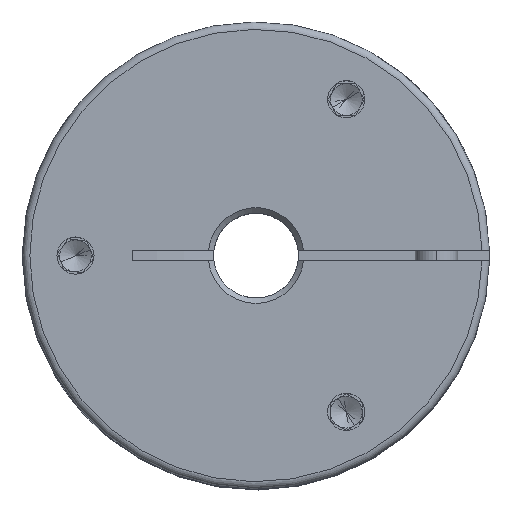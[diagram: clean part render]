
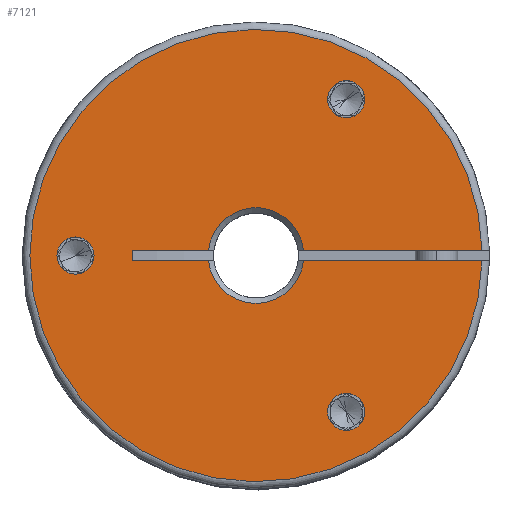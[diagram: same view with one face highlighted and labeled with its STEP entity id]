
A CAD part, top view. The second image highlights one B-rep face of the part: STEP entity #7121.
In plain terms, the highlighted planar face has unit normal (0, 0, 1).
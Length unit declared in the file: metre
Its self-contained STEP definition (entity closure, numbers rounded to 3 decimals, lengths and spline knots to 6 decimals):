
#403 = EDGE_CURVE ( 'NONE', #17559, #8874, #3615, .T. ) ;
#457 = CIRCLE ( 'NONE', #26208, 0.0045 ) ;
#834 = AXIS2_PLACEMENT_3D ( 'NONE', #24992, #5740, #27371 ) ;
#992 = CARTESIAN_POINT ( 'NONE',  ( 0.021294, -0.0005, 0.02345 ) ) ;
#1031 = CARTESIAN_POINT ( 'NONE',  ( 0., 0., 0.02345 ) ) ;
#1873 = CARTESIAN_POINT ( 'NONE',  ( 0.01025, 0.014722, 0.02345 ) ) ;
#2520 = FACE_BOUND ( 'NONE', #24601, .T. ) ;
#2903 = DIRECTION ( 'NONE',  ( 1., 0., 0. ) ) ;
#3254 = CARTESIAN_POINT ( 'NONE',  ( 0.0085, -0.014722, 0.02345 ) ) ;
#3404 = ORIENTED_EDGE ( 'NONE', *, *, #4106, .T. ) ;
#3424 = DIRECTION ( 'NONE',  ( 1., 0., 0. ) ) ;
#3501 = EDGE_CURVE ( 'NONE', #26409, #21479, #26547, .T. ) ;
#3576 = CARTESIAN_POINT ( 'NONE',  ( 0., 0., 0.02345 ) ) ;
#3615 = CIRCLE ( 'NONE', #26888, 0.00175 ) ;
#3699 = CARTESIAN_POINT ( 'NONE',  ( -0.017, 0., 0.02345 ) ) ;
#3891 = DIRECTION ( 'NONE',  ( 0., 0., 1. ) ) ;
#4106 = EDGE_CURVE ( 'NONE', #26416, #26409, #457, .T. ) ;
#4438 = CIRCLE ( 'NONE', #30797, 0.00175 ) ;
#4801 = CARTESIAN_POINT ( 'NONE',  ( 0., 0.0005, 0.02345 ) ) ;
#4888 = ORIENTED_EDGE ( 'NONE', *, *, #15957, .T. ) ;
#5241 = DIRECTION ( 'NONE',  ( 0., 0., 1. ) ) ;
#5435 = CIRCLE ( 'NONE', #27682, 0.0045 ) ;
#5737 = LINE ( 'NONE', #4801, #27726 ) ;
#5740 = DIRECTION ( 'NONE',  ( 0., 0., 1. ) ) ;
#6078 = DIRECTION ( 'NONE',  ( 1., 0., 0. ) ) ;
#6241 = FACE_BOUND ( 'NONE', #14120, .T. ) ;
#6325 = VERTEX_POINT ( 'NONE', #19108 ) ;
#6703 = EDGE_CURVE ( 'NONE', #8874, #17559, #16708, .T. ) ;
#7121 = ADVANCED_FACE ( 'NONE', ( #2520, #12577, #6241, #18517 ), #12061, .T. ) ;
#7330 = VERTEX_POINT ( 'NONE', #24437 ) ;
#7370 = DIRECTION ( 'NONE',  ( 1., 0., 0. ) ) ;
#7820 = EDGE_CURVE ( 'NONE', #7330, #19476, #5435, .T. ) ;
#8298 = EDGE_CURVE ( 'NONE', #19950, #21479, #12493, .T. ) ;
#8433 = CARTESIAN_POINT ( 'NONE',  ( 0.021294, 0.0005, 0.02345 ) ) ;
#8686 = EDGE_CURVE ( 'NONE', #29971, #19476, #5737, .T. ) ;
#8820 = CARTESIAN_POINT ( 'NONE',  ( -0.011615, -0.0005, 0.02345 ) ) ;
#8874 = VERTEX_POINT ( 'NONE', #24647 ) ;
#9134 = VECTOR ( 'NONE', #17626, 1. ) ;
#9419 = CIRCLE ( 'NONE', #16531, 0.0213 ) ;
#9718 = VERTEX_POINT ( 'NONE', #992 ) ;
#9816 = CARTESIAN_POINT ( 'NONE',  ( -0.01525, 0., 0.02345 ) ) ;
#10327 = DIRECTION ( 'NONE',  ( 1., 0., 0. ) ) ;
#10618 = ORIENTED_EDGE ( 'NONE', *, *, #6703, .F. ) ;
#10895 = VERTEX_POINT ( 'NONE', #13512 ) ;
#10974 = DIRECTION ( 'NONE',  ( 0., 0., 1. ) ) ;
#10983 = LINE ( 'NONE', #22877, #22911 ) ;
#12061 = PLANE ( 'NONE',  #12738 ) ;
#12246 = VECTOR ( 'NONE', #23066, 1. ) ;
#12302 = CARTESIAN_POINT ( 'NONE',  ( -0.01875, 0., 0.02345 ) ) ;
#12493 = LINE ( 'NONE', #27488, #9134 ) ;
#12577 = FACE_BOUND ( 'NONE', #18660, .T. ) ;
#12738 = AXIS2_PLACEMENT_3D ( 'NONE', #26415, #14670, #7370 ) ;
#12949 = DIRECTION ( 'NONE',  ( 0., 0., -1. ) ) ;
#13512 = CARTESIAN_POINT ( 'NONE',  ( 0.01025, -0.014722, 0.02345 ) ) ;
#13700 = CARTESIAN_POINT ( 'NONE',  ( -0.011615, 0.0005, 0.02345 ) ) ;
#14120 = EDGE_LOOP ( 'NONE', ( #15504, #22628 ) ) ;
#14541 = CARTESIAN_POINT ( 'NONE',  ( 0.0085, 0.014722, 0.02345 ) ) ;
#14615 = CARTESIAN_POINT ( 'NONE',  ( 0.0085, 0.014722, 0.02345 ) ) ;
#14670 = DIRECTION ( 'NONE',  ( 0., 0., 1. ) ) ;
#15154 = EDGE_LOOP ( 'NONE', ( #15388, #4888, #3404, #28213, #20415, #22638, #22944, #22526 ) ) ;
#15388 = ORIENTED_EDGE ( 'NONE', *, *, #19275, .T. ) ;
#15504 = ORIENTED_EDGE ( 'NONE', *, *, #17340, .F. ) ;
#15578 = AXIS2_PLACEMENT_3D ( 'NONE', #3254, #19899, #10327 ) ;
#15957 = EDGE_CURVE ( 'NONE', #9718, #26416, #29007, .T. ) ;
#16531 = AXIS2_PLACEMENT_3D ( 'NONE', #1031, #24850, #3424 ) ;
#16708 = CIRCLE ( 'NONE', #25478, 0.00175 ) ;
#17076 = DIRECTION ( 'NONE',  ( -1., 0., 0. ) ) ;
#17340 = EDGE_CURVE ( 'NONE', #10895, #6325, #28926, .T. ) ;
#17559 = VERTEX_POINT ( 'NONE', #1873 ) ;
#17626 = DIRECTION ( 'NONE',  ( 0., -1., 0. ) ) ;
#18133 = DIRECTION ( 'NONE',  ( 0., 0., -1. ) ) ;
#18404 = DIRECTION ( 'NONE',  ( -1., 0., 0. ) ) ;
#18479 = AXIS2_PLACEMENT_3D ( 'NONE', #22149, #29320, #2903 ) ;
#18517 = FACE_OUTER_BOUND ( 'NONE', #15154, .T. ) ;
#18660 = EDGE_LOOP ( 'NONE', ( #30029, #10618 ) ) ;
#19108 = CARTESIAN_POINT ( 'NONE',  ( 0.00675, -0.014722, 0.02345 ) ) ;
#19275 = EDGE_CURVE ( 'NONE', #29971, #9718, #9419, .T. ) ;
#19476 = VERTEX_POINT ( 'NONE', #20690 ) ;
#19899 = DIRECTION ( 'NONE',  ( 0., 0., 1. ) ) ;
#19950 = VERTEX_POINT ( 'NONE', #13700 ) ;
#20222 = VECTOR ( 'NONE', #18404, 1. ) ;
#20357 = CARTESIAN_POINT ( 'NONE',  ( 0., -0.0005, 0.02345 ) ) ;
#20415 = ORIENTED_EDGE ( 'NONE', *, *, #8298, .F. ) ;
#20430 = CARTESIAN_POINT ( 'NONE',  ( 0.004472, -0.0005, 0.02345 ) ) ;
#20551 = VERTEX_POINT ( 'NONE', #9816 ) ;
#20690 = CARTESIAN_POINT ( 'NONE',  ( 0.004472, 0.0005, 0.02345 ) ) ;
#20841 = ORIENTED_EDGE ( 'NONE', *, *, #24021, .F. ) ;
#21479 = VERTEX_POINT ( 'NONE', #8820 ) ;
#21741 = DIRECTION ( 'NONE',  ( 1., 0., 0. ) ) ;
#22149 = CARTESIAN_POINT ( 'NONE',  ( -0.017, 0., 0.02345 ) ) ;
#22426 = DIRECTION ( 'NONE',  ( 1., 0., 0. ) ) ;
#22526 = ORIENTED_EDGE ( 'NONE', *, *, #8686, .F. ) ;
#22628 = ORIENTED_EDGE ( 'NONE', *, *, #28392, .F. ) ;
#22638 = ORIENTED_EDGE ( 'NONE', *, *, #27468, .F. ) ;
#22832 = DIRECTION ( 'NONE',  ( 1., 0., 0. ) ) ;
#22877 = CARTESIAN_POINT ( 'NONE',  ( 0., 0.0005, 0.02345 ) ) ;
#22911 = VECTOR ( 'NONE', #22979, 1. ) ;
#22944 = ORIENTED_EDGE ( 'NONE', *, *, #7820, .T. ) ;
#22979 = DIRECTION ( 'NONE',  ( -1., 0., 0. ) ) ;
#23066 = DIRECTION ( 'NONE',  ( -1., 0., 0. ) ) ;
#23099 = CARTESIAN_POINT ( 'NONE',  ( 0., -0.0005, 0.02345 ) ) ;
#24021 = EDGE_CURVE ( 'NONE', #28346, #20551, #4438, .T. ) ;
#24437 = CARTESIAN_POINT ( 'NONE',  ( -0.004472, 0.0005, 0.02345 ) ) ;
#24601 = EDGE_LOOP ( 'NONE', ( #29212, #20841 ) ) ;
#24647 = CARTESIAN_POINT ( 'NONE',  ( 0.00675, 0.014722, 0.02345 ) ) ;
#24850 = DIRECTION ( 'NONE',  ( 0., 0., 1. ) ) ;
#24992 = CARTESIAN_POINT ( 'NONE',  ( 0.0085, -0.014722, 0.02345 ) ) ;
#25478 = AXIS2_PLACEMENT_3D ( 'NONE', #14541, #3891, #21741 ) ;
#25606 = EDGE_CURVE ( 'NONE', #20551, #28346, #28155, .T. ) ;
#26208 = AXIS2_PLACEMENT_3D ( 'NONE', #3576, #18133, #22832 ) ;
#26409 = VERTEX_POINT ( 'NONE', #29588 ) ;
#26415 = CARTESIAN_POINT ( 'NONE',  ( 0., 0., 0.02345 ) ) ;
#26416 = VERTEX_POINT ( 'NONE', #20430 ) ;
#26547 = LINE ( 'NONE', #23099, #20222 ) ;
#26565 = CIRCLE ( 'NONE', #15578, 0.00175 ) ;
#26888 = AXIS2_PLACEMENT_3D ( 'NONE', #14615, #5241, #28969 ) ;
#27308 = CARTESIAN_POINT ( 'NONE',  ( 0., 0., 0.02345 ) ) ;
#27371 = DIRECTION ( 'NONE',  ( 1., 0., 0. ) ) ;
#27468 = EDGE_CURVE ( 'NONE', #7330, #19950, #10983, .T. ) ;
#27488 = CARTESIAN_POINT ( 'NONE',  ( -0.011615, -0.0005, 0.02345 ) ) ;
#27682 = AXIS2_PLACEMENT_3D ( 'NONE', #27308, #12949, #22426 ) ;
#27726 = VECTOR ( 'NONE', #17076, 1. ) ;
#28155 = CIRCLE ( 'NONE', #18479, 0.00175 ) ;
#28213 = ORIENTED_EDGE ( 'NONE', *, *, #3501, .T. ) ;
#28346 = VERTEX_POINT ( 'NONE', #12302 ) ;
#28392 = EDGE_CURVE ( 'NONE', #6325, #10895, #26565, .T. ) ;
#28926 = CIRCLE ( 'NONE', #834, 0.00175 ) ;
#28969 = DIRECTION ( 'NONE',  ( 1., 0., 0. ) ) ;
#29007 = LINE ( 'NONE', #20357, #12246 ) ;
#29212 = ORIENTED_EDGE ( 'NONE', *, *, #25606, .F. ) ;
#29320 = DIRECTION ( 'NONE',  ( 0., 0., 1. ) ) ;
#29588 = CARTESIAN_POINT ( 'NONE',  ( -0.004472, -0.0005, 0.02345 ) ) ;
#29971 = VERTEX_POINT ( 'NONE', #8433 ) ;
#30029 = ORIENTED_EDGE ( 'NONE', *, *, #403, .F. ) ;
#30797 = AXIS2_PLACEMENT_3D ( 'NONE', #3699, #10974, #6078 ) ;
